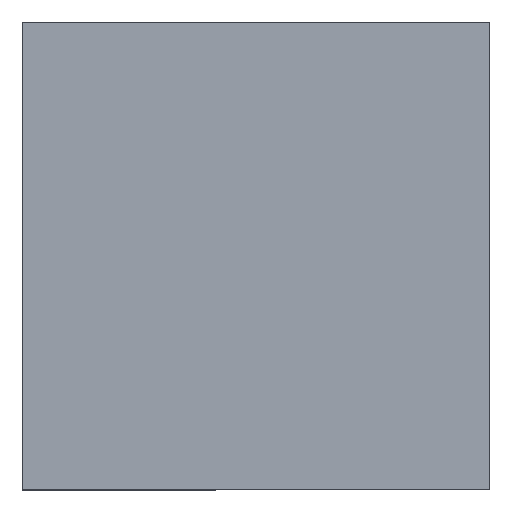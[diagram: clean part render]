
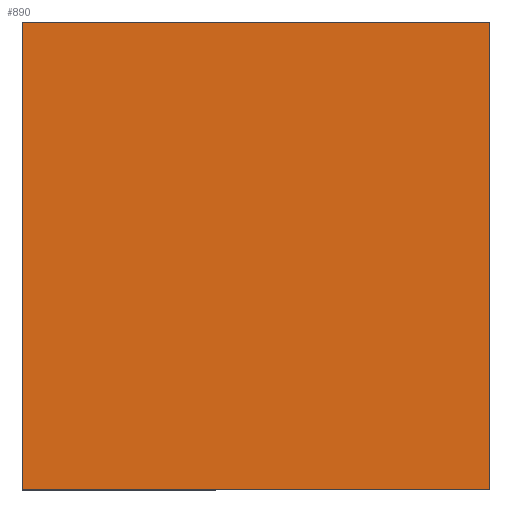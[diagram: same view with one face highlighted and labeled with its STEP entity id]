
A CAD part, top view. The second image highlights one B-rep face of the part: STEP entity #890.
In plain terms, the highlighted planar face has unit normal (0, 0, 1).
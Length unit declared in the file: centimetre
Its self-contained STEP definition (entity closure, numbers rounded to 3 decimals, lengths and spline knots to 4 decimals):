
#69 = CARTESIAN_POINT ( 'NONE',  ( 0., 0., 1000. ) ) ;
#147 = ORIENTED_EDGE ( 'NONE', *, *, #504, .T. ) ;
#193 = VECTOR ( 'NONE', #313, 100. ) ;
#200 = ORIENTED_EDGE ( 'NONE', *, *, #462, .T. ) ;
#208 = VECTOR ( 'NONE', #657, 100. ) ;
#224 = CARTESIAN_POINT ( 'NONE',  ( 0., 1000., 1000. ) ) ;
#234 = CARTESIAN_POINT ( 'NONE',  ( 0., 1000., 1000. ) ) ;
#249 = VERTEX_POINT ( 'NONE', #941 ) ;
#258 = DIRECTION ( 'NONE',  ( 0., 0., 1. ) ) ;
#313 = DIRECTION ( 'NONE',  ( -1., 0., 0. ) ) ;
#369 = EDGE_CURVE ( 'NONE', #778, #927, #864, .T. ) ;
#384 = LINE ( 'NONE', #480, #842 ) ;
#397 = FACE_OUTER_BOUND ( 'NONE', #435, .T. ) ;
#404 = CARTESIAN_POINT ( 'NONE',  ( 1000., 1000., 1000. ) ) ;
#409 = EDGE_CURVE ( 'NONE', #815, #249, #384, .T. ) ;
#435 = EDGE_LOOP ( 'NONE', ( #200, #852, #147, #544 ) ) ;
#462 = EDGE_CURVE ( 'NONE', #927, #815, #497, .T. ) ;
#480 = CARTESIAN_POINT ( 'NONE',  ( 0., 0., 1000. ) ) ;
#485 = CARTESIAN_POINT ( 'NONE',  ( 0., 1000., 1000. ) ) ;
#497 = LINE ( 'NONE', #234, #506 ) ;
#504 = EDGE_CURVE ( 'NONE', #249, #778, #811, .T. ) ;
#506 = VECTOR ( 'NONE', #966, 100. ) ;
#544 = ORIENTED_EDGE ( 'NONE', *, *, #369, .T. ) ;
#563 = DIRECTION ( 'NONE',  ( 1., 0., 0. ) ) ;
#584 = DIRECTION ( 'NONE',  ( 1., 0., 0. ) ) ;
#587 = PLANE ( 'NONE',  #780 ) ;
#637 = CARTESIAN_POINT ( 'NONE',  ( 1000., 1000., 1000. ) ) ;
#656 = CARTESIAN_POINT ( 'NONE',  ( 0., 0., 1000. ) ) ;
#657 = DIRECTION ( 'NONE',  ( 0., 1., 0. ) ) ;
#778 = VERTEX_POINT ( 'NONE', #637 ) ;
#780 = AXIS2_PLACEMENT_3D ( 'NONE', #69, #258, #584 ) ;
#811 = LINE ( 'NONE', #404, #208 ) ;
#815 = VERTEX_POINT ( 'NONE', #656 ) ;
#842 = VECTOR ( 'NONE', #563, 100. ) ;
#852 = ORIENTED_EDGE ( 'NONE', *, *, #409, .T. ) ;
#864 = LINE ( 'NONE', #224, #193 ) ;
#890 = ADVANCED_FACE ( 'NONE', ( #397 ), #587, .T. ) ;
#927 = VERTEX_POINT ( 'NONE', #485 ) ;
#941 = CARTESIAN_POINT ( 'NONE',  ( 1000., 0., 1000. ) ) ;
#966 = DIRECTION ( 'NONE',  ( 0., -1., 0. ) ) ;
